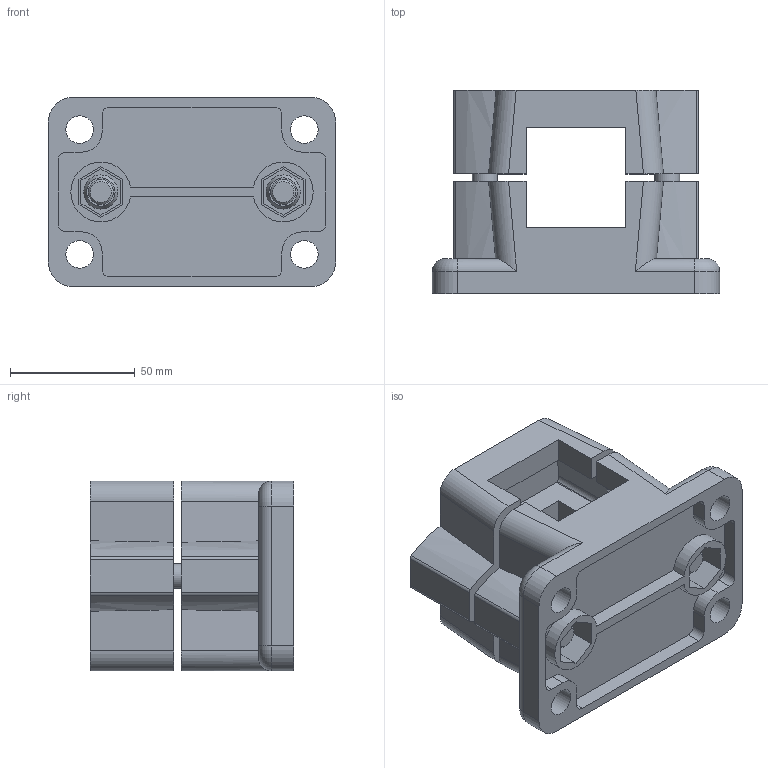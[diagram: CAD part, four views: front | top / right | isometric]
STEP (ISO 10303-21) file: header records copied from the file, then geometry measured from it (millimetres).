
FILE_DESCRIPTION( ( 'STEP AP203' ), '1' );
FILE_NAME( 'C:/Temp/Ganter_Step_05_03_2020/data/3_7/147/Flanged connector clamp GN 147-V40-2-BL.stp', '2020-03-12T14:20:31', ( 'License CC BY-ND 4.0' ), ( 'CADENAS' ), ' ', 'PARTsolutions', ' ' );
FILE_SCHEMA( ( 'CONFIG_CONTROL_DESIGN' ) );
Length unit declared in the file: millimetre
Products named in the file (1): _Flanged connector clamp GN 147-V40-2-BL
Bounding box: 115 x 81.5 x 76 mm (x, y, z)
Volume: 233406.3 mm3; surface area: 81411.1 mm2
Topology: 1 solids, 1 shells, 234 faces, 628 edges, 418 vertices
Faces by surface type: plane 140, cylinder 84, torus 6, cone 4
Full cylindrical faces by diameter (mm): 10 x4, 10.5 x4, 11 x4, 16 x2
Entity records: 7290 total; most frequent: CARTESIAN_POINT 1325, DIRECTION 1248, ORIENTED_EDGE 1196, EDGE_CURVE 598, AXIS2_PLACEMENT_3D 419, LINE 410, VECTOR 410, VERTEX_POINT 408
